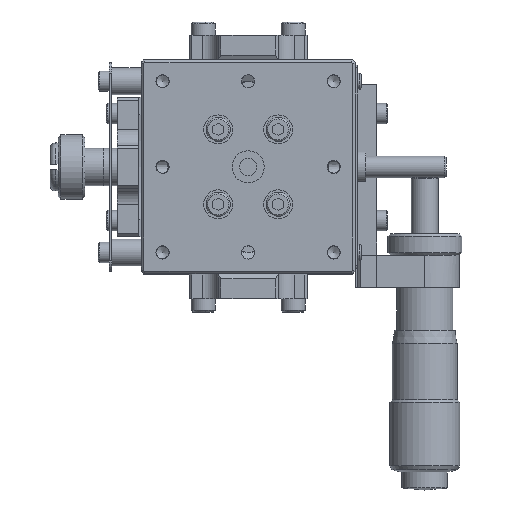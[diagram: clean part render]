
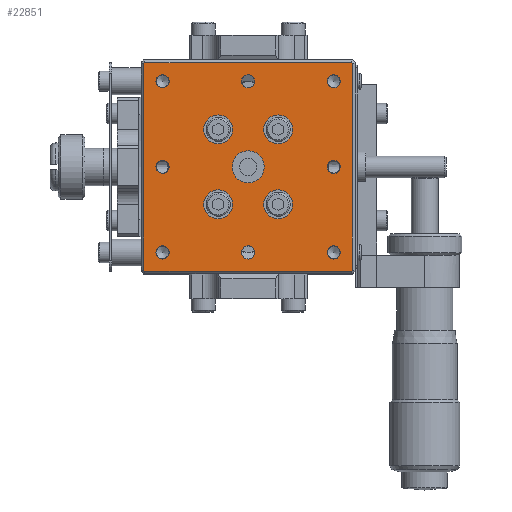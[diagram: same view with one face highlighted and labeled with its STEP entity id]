
A CAD part, top view. The second image highlights one B-rep face of the part: STEP entity #22851.
In plain terms, the highlighted planar face has unit normal (0, 0, 1).
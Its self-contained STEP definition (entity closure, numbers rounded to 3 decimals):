
#22404=CARTESIAN_POINT('',(-19.293,19.5,-20.0));
#22405=VERTEX_POINT('',#22404);
#22412=CARTESIAN_POINT('',(19.293,19.5,-20.0));
#22413=VERTEX_POINT('',#22412);
#22414=CARTESIAN_POINT('',(-19.293,19.5,-20.0));
#22415=DIRECTION('',(1.0,0.0,0.0));
#22416=VECTOR('',#22415,38.586);
#22417=LINE('',#22414,#22416);
#22418=EDGE_CURVE('',#22405,#22413,#22417,.T.);
#22434=CARTESIAN_POINT('',(-19.293,-19.5,-20.0));
#22435=VERTEX_POINT('',#22434);
#22436=CARTESIAN_POINT('',(-19.5,-19.293,-20.0));
#22437=VERTEX_POINT('',#22436);
#22438=CARTESIAN_POINT('',(-19.293,-19.5,-20.0));
#22439=DIRECTION('',(-0.707,0.707,0.0));
#22440=VECTOR('',#22439,0.293);
#22441=LINE('',#22438,#22440);
#22442=EDGE_CURVE('',#22435,#22437,#22441,.T.);
#22465=CARTESIAN_POINT('',(19.5,19.293,-20.0));
#22466=VERTEX_POINT('',#22465);
#22467=CARTESIAN_POINT('',(19.293,19.5,-20.0));
#22468=DIRECTION('',(0.707,-0.707,0.0));
#22469=VECTOR('',#22468,0.293);
#22470=LINE('',#22467,#22469);
#22471=EDGE_CURVE('',#22413,#22466,#22470,.T.);
#22494=CARTESIAN_POINT('',(19.293,-19.5,-20.0));
#22495=VERTEX_POINT('',#22494);
#22496=CARTESIAN_POINT('',(19.293,-19.5,-20.0));
#22497=DIRECTION('',(-1.0,0.0,0.0));
#22498=VECTOR('',#22497,38.586);
#22499=LINE('',#22496,#22498);
#22500=EDGE_CURVE('',#22495,#22435,#22499,.T.);
#22527=CARTESIAN_POINT('',(19.5,-19.293,-20.0));
#22528=VERTEX_POINT('',#22527);
#22529=CARTESIAN_POINT('',(19.5,19.293,-20.0));
#22530=DIRECTION('',(0.0,-1.0,0.0));
#22531=VECTOR('',#22530,38.586);
#22532=LINE('',#22529,#22531);
#22533=EDGE_CURVE('',#22466,#22528,#22532,.T.);
#22549=CARTESIAN_POINT('',(19.5,-19.293,-20.0));
#22550=DIRECTION('',(-0.707,-0.707,0.0));
#22551=VECTOR('',#22550,0.293);
#22552=LINE('',#22549,#22551);
#22553=EDGE_CURVE('',#22528,#22495,#22552,.T.);
#22570=CARTESIAN_POINT('',(-19.5,19.293,-20.0));
#22571=VERTEX_POINT('',#22570);
#22572=CARTESIAN_POINT('',(-19.5,-19.293,-20.0));
#22573=DIRECTION('',(0.0,1.0,0.0));
#22574=VECTOR('',#22573,38.586);
#22575=LINE('',#22572,#22574);
#22576=EDGE_CURVE('',#22437,#22571,#22575,.T.);
#22592=CARTESIAN_POINT('',(-19.5,19.293,-20.0));
#22593=DIRECTION('',(0.707,0.707,0.0));
#22594=VECTOR('',#22593,0.293);
#22595=LINE('',#22592,#22594);
#22596=EDGE_CURVE('',#22571,#22405,#22595,.T.);
#22693=CARTESIAN_POINT('',(0.0,20.0,-20.0));
#22694=DIRECTION('',(0.0,0.0,1.0));
#22695=DIRECTION('',(1.0,0.0,0.0));
#22696=AXIS2_PLACEMENT_3D('',#22693,#22694,#22695);
#22697=PLANE('',#22696);
#22698=ORIENTED_EDGE('',*,*,#22442,.F.);
#22699=ORIENTED_EDGE('',*,*,#22500,.F.);
#22700=ORIENTED_EDGE('',*,*,#22553,.F.);
#22701=ORIENTED_EDGE('',*,*,#22533,.F.);
#22702=ORIENTED_EDGE('',*,*,#22471,.F.);
#22703=ORIENTED_EDGE('',*,*,#22418,.F.);
#22704=ORIENTED_EDGE('',*,*,#22596,.F.);
#22705=ORIENTED_EDGE('',*,*,#22576,.F.);
#22706=EDGE_LOOP('',(#22698,#22699,#22700,#22701,#22702,#22703,#22704,#22705));
#22707=FACE_OUTER_BOUND('',#22706,.T.);
#22708=CARTESIAN_POINT('',(-17.23,0.,-20.0));
#22709=VERTEX_POINT('',#22708);
#22710=CARTESIAN_POINT('',(-16.0,0.,-20.0));
#22711=DIRECTION('',(0.0,0.0,-1.0));
#22712=DIRECTION('',(-1.0,0.0,0.0));
#22713=AXIS2_PLACEMENT_3D('',#22710,#22711,#22712);
#22714=CIRCLE('',#22713,1.23);
#22715=EDGE_CURVE('',#22709,#22709,#22714,.T.);
#22716=ORIENTED_EDGE('',*,*,#22715,.T.);
#22717=EDGE_LOOP('',(#22716));
#22718=FACE_BOUND('',#22717,.T.);
#22719=CARTESIAN_POINT('',(17.23,0.0,-20.0));
#22720=VERTEX_POINT('',#22719);
#22721=CARTESIAN_POINT('',(16.0,0.0,-20.0));
#22722=DIRECTION('',(0.0,0.0,-1.0));
#22723=DIRECTION('',(1.0,0.0,0.0));
#22724=AXIS2_PLACEMENT_3D('',#22721,#22722,#22723);
#22725=CIRCLE('',#22724,1.23);
#22726=EDGE_CURVE('',#22720,#22720,#22725,.T.);
#22727=ORIENTED_EDGE('',*,*,#22726,.T.);
#22728=EDGE_LOOP('',(#22727));
#22729=FACE_BOUND('',#22728,.T.);
#22730=CARTESIAN_POINT('',(-1.229,16.0,-20.0));
#22731=VERTEX_POINT('',#22730);
#22732=CARTESIAN_POINT('',(0.,16.0,-20.0));
#22733=DIRECTION('',(0.0,0.0,-1.0));
#22734=DIRECTION('',(-1.0,0.0,0.0));
#22735=AXIS2_PLACEMENT_3D('',#22732,#22733,#22734);
#22736=CIRCLE('',#22735,1.23);
#22737=EDGE_CURVE('',#22731,#22731,#22736,.T.);
#22738=ORIENTED_EDGE('',*,*,#22737,.T.);
#22739=EDGE_LOOP('',(#22738));
#22740=FACE_BOUND('',#22739,.T.);
#22741=CARTESIAN_POINT('',(1.23,-16.0,-20.0));
#22742=VERTEX_POINT('',#22741);
#22743=CARTESIAN_POINT('',(0.0,-16.0,-20.0));
#22744=DIRECTION('',(0.0,0.0,-1.0));
#22745=DIRECTION('',(1.0,0.0,0.0));
#22746=AXIS2_PLACEMENT_3D('',#22743,#22744,#22745);
#22747=CIRCLE('',#22746,1.23);
#22748=EDGE_CURVE('',#22742,#22742,#22747,.T.);
#22749=ORIENTED_EDGE('',*,*,#22748,.T.);
#22750=EDGE_LOOP('',(#22749));
#22751=FACE_BOUND('',#22750,.T.);
#22752=CARTESIAN_POINT('',(-16.,14.771,-20.0));
#22753=VERTEX_POINT('',#22752);
#22754=CARTESIAN_POINT('',(-16.,16.,-20.0));
#22755=DIRECTION('',(0.0,0.0,-1.0));
#22756=DIRECTION('',(0.0,-1.0,0.0));
#22757=AXIS2_PLACEMENT_3D('',#22754,#22755,#22756);
#22758=CIRCLE('',#22757,1.23);
#22759=EDGE_CURVE('',#22753,#22753,#22758,.T.);
#22760=ORIENTED_EDGE('',*,*,#22759,.T.);
#22761=EDGE_LOOP('',(#22760));
#22762=FACE_BOUND('',#22761,.T.);
#22763=CARTESIAN_POINT('',(14.771,16.0,-20.0));
#22764=VERTEX_POINT('',#22763);
#22765=CARTESIAN_POINT('',(16.0,16.0,-20.0));
#22766=DIRECTION('',(0.0,0.0,-1.0));
#22767=DIRECTION('',(-1.0,0.0,0.0));
#22768=AXIS2_PLACEMENT_3D('',#22765,#22766,#22767);
#22769=CIRCLE('',#22768,1.23);
#22770=EDGE_CURVE('',#22764,#22764,#22769,.T.);
#22771=ORIENTED_EDGE('',*,*,#22770,.T.);
#22772=EDGE_LOOP('',(#22771));
#22773=FACE_BOUND('',#22772,.T.);
#22774=CARTESIAN_POINT('',(16.0,-14.771,-20.0));
#22775=VERTEX_POINT('',#22774);
#22776=CARTESIAN_POINT('',(16.0,-16.0,-20.0));
#22777=DIRECTION('',(0.0,0.0,-1.0));
#22778=DIRECTION('',(0.0,1.0,0.0));
#22779=AXIS2_PLACEMENT_3D('',#22776,#22777,#22778);
#22780=CIRCLE('',#22779,1.23);
#22781=EDGE_CURVE('',#22775,#22775,#22780,.T.);
#22782=ORIENTED_EDGE('',*,*,#22781,.T.);
#22783=EDGE_LOOP('',(#22782));
#22784=FACE_BOUND('',#22783,.T.);
#22785=CARTESIAN_POINT('',(-14.771,-16.0,-20.0));
#22786=VERTEX_POINT('',#22785);
#22787=CARTESIAN_POINT('',(-16.0,-16.0,-20.0));
#22788=DIRECTION('',(0.0,0.0,-1.0));
#22789=DIRECTION('',(1.0,0.0,0.0));
#22790=AXIS2_PLACEMENT_3D('',#22787,#22788,#22789);
#22791=CIRCLE('',#22790,1.23);
#22792=EDGE_CURVE('',#22786,#22786,#22791,.T.);
#22793=ORIENTED_EDGE('',*,*,#22792,.T.);
#22794=EDGE_LOOP('',(#22793));
#22795=FACE_BOUND('',#22794,.T.);
#22796=CARTESIAN_POINT('',(2.9,-7.,-20.0));
#22797=VERTEX_POINT('',#22796);
#22798=CARTESIAN_POINT('',(5.6,-7.,-20.0));
#22799=DIRECTION('',(0.0,0.0,-1.0));
#22800=DIRECTION('',(-1.0,0.0,0.0));
#22801=AXIS2_PLACEMENT_3D('',#22798,#22799,#22800);
#22802=CIRCLE('',#22801,2.7);
#22803=EDGE_CURVE('',#22797,#22797,#22802,.T.);
#22804=ORIENTED_EDGE('',*,*,#22803,.T.);
#22805=EDGE_LOOP('',(#22804));
#22806=FACE_BOUND('',#22805,.T.);
#22807=CARTESIAN_POINT('',(-8.3,-7.,-20.0));
#22808=VERTEX_POINT('',#22807);
#22809=CARTESIAN_POINT('',(-5.6,-7.,-20.0));
#22810=DIRECTION('',(0.0,0.0,-1.0));
#22811=DIRECTION('',(-1.0,0.0,0.0));
#22812=AXIS2_PLACEMENT_3D('',#22809,#22810,#22811);
#22813=CIRCLE('',#22812,2.7);
#22814=EDGE_CURVE('',#22808,#22808,#22813,.T.);
#22815=ORIENTED_EDGE('',*,*,#22814,.T.);
#22816=EDGE_LOOP('',(#22815));
#22817=FACE_BOUND('',#22816,.T.);
#22818=CARTESIAN_POINT('',(-2.9,7.,-20.0));
#22819=VERTEX_POINT('',#22818);
#22820=CARTESIAN_POINT('',(-5.6,7.,-20.0));
#22821=DIRECTION('',(0.0,0.0,-1.0));
#22822=DIRECTION('',(1.0,0.0,0.0));
#22823=AXIS2_PLACEMENT_3D('',#22820,#22821,#22822);
#22824=CIRCLE('',#22823,2.7);
#22825=EDGE_CURVE('',#22819,#22819,#22824,.T.);
#22826=ORIENTED_EDGE('',*,*,#22825,.T.);
#22827=EDGE_LOOP('',(#22826));
#22828=FACE_BOUND('',#22827,.T.);
#22829=CARTESIAN_POINT('',(8.3,7.,-20.0));
#22830=VERTEX_POINT('',#22829);
#22831=CARTESIAN_POINT('',(5.6,7.,-20.0));
#22832=DIRECTION('',(0.0,0.0,-1.0));
#22833=DIRECTION('',(1.0,0.0,0.0));
#22834=AXIS2_PLACEMENT_3D('',#22831,#22832,#22833);
#22835=CIRCLE('',#22834,2.7);
#22836=EDGE_CURVE('',#22830,#22830,#22835,.T.);
#22837=ORIENTED_EDGE('',*,*,#22836,.T.);
#22838=EDGE_LOOP('',(#22837));
#22839=FACE_BOUND('',#22838,.T.);
#22840=CARTESIAN_POINT('',(3.,0.0,-20.0));
#22841=VERTEX_POINT('',#22840);
#22842=CARTESIAN_POINT('',(0.0,0.0,-20.0));
#22843=DIRECTION('',(0.0,0.0,-1.0));
#22844=DIRECTION('',(1.0,0.0,0.0));
#22845=AXIS2_PLACEMENT_3D('',#22842,#22843,#22844);
#22846=CIRCLE('',#22845,3.);
#22847=EDGE_CURVE('',#22841,#22841,#22846,.T.);
#22848=ORIENTED_EDGE('',*,*,#22847,.T.);
#22849=EDGE_LOOP('',(#22848));
#22850=FACE_BOUND('',#22849,.T.);
#22851=ADVANCED_FACE('',(#22707,#22718,#22729,#22740,#22751,#22762,#22773,#22784,#22795,#22806,#22817,#22828,#22839,#22850),#22697,.T.);
